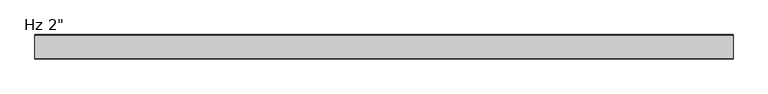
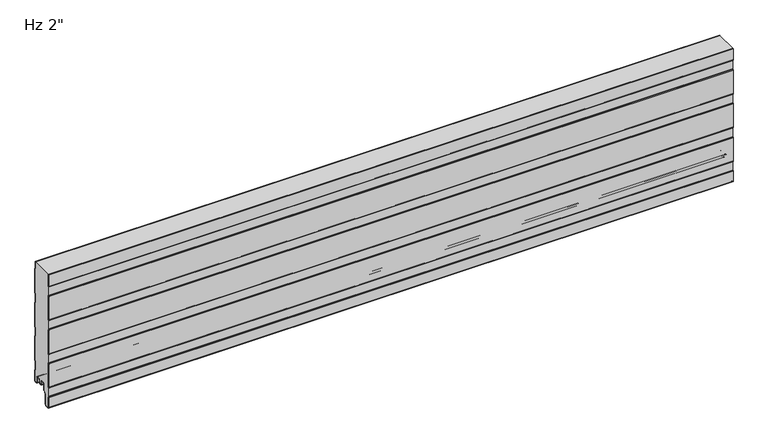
"""IFC4 building model written with IfcOpenShell, lengths in millimetres: plate geometry."""

from ifc_helpers import new_model, si_unit, point, frame, frame_2d, origin, place, context, project, spatial, polyline, circle_curve, trimmed, segment, composite_curve, outline, extrude, source, transform, mapped, element, save
from ifc_brep_helpers import plane_surface, cylinder_surface, revolved_surface, advanced_brep


def plate_de2fd6df(model_context):
    return source(origin(), model_context, "Body", "SolidModel", [
        extrude(outline(composite_curve([segment(trimmed(circle_curve(frame_2d((-22.5013969, 2.2313092)), 1.1999976), [point((-22.470875, 1.0316999))], [point((-21.3014003, 2.2328239))], True, "CARTESIAN"), True, "CONTINUOUS"), segment(polyline([(-21.3014003, 2.2328239), (-21.3014003, 5.9912173), (-22.6998791, 5.9912173), (-22.6998791, 8.6903283)]), True, "CONTINUOUS"), segment(trimmed(circle_curve(frame_2d((-26.0498744, 8.6903283)), 3.3499953), [point((-22.6998791, 8.6903283))], [point((-26.0498744, 12.0403236))], True, "CARTESIAN"), True, "CONTINUOUS"), segment(polyline([(-26.0498744, 12.0403236), (-30.4498656, 12.0403236)]), True, "CONTINUOUS"), segment(trimmed(circle_curve(frame_2d((-30.4498656, 8.6903283)), 3.3499953), [point((-30.4498656, 12.0403236))], [point((-33.7998609, 8.6903283))], True, "CARTESIAN"), True, "CONTINUOUS"), segment(polyline([(-33.7998609, 8.6903283), (-33.7998609, -3.1205608)]), True, "CONTINUOUS"), segment(trimmed(circle_curve(frame_2d((-35.4998555, -3.1205608)), 1.6999946), [point((-33.7998609, -3.1205608))], [point((-34.2977778, -4.3226385))], False, "CARTESIAN"), True, "CONTINUOUS"), segment(polyline([(-34.2977778, -4.3226385), (-39.7998489, -9.8247096), (-39.7998489, -31.9198392)]), True, "CONTINUOUS"), segment(trimmed(circle_curve(frame_2d((-42.4998415, -31.9198392)), 2.6999926), [point((-39.7998489, -31.9198392))], [point((-42.0184509, -34.5765709))], False, "CARTESIAN"), True, "CONTINUOUS"), segment(polyline([(-42.0184509, -34.5765709), (-47.0002718, -35.0125699)]), True, "CONTINUOUS"), segment(trimmed(circle_curve(frame_2d((-47.2243575, -32.4521176)), 2.5702393), [point((-47.0002718, -35.0125699))], [point((-49.7945967, -32.4521176))], False, "CARTESIAN"), True, "CONTINUOUS"), segment(polyline([(-49.7945967, -32.4521176), (-49.7945967, -10.4790962), (-48.5946282, -9.2791277), (-48.5946282, 10.4402849), (-49.7948589, 11.6405156), (-49.7948589, 65.7206473), (-48.5946282, 66.920878), (-48.5946282, 86.6402905), (-49.7948589, 87.8405213), (-49.7948589, 141.920653), (-48.5946282, 143.1208837), (-48.5946282, 162.8402962), (-49.7948589, 164.0405269), (-49.7948589, 218.1206587), (-48.5946282, 219.3208894), (-48.5946282, 239.0403019), (-49.7948589, 240.2405326), (-49.7948589, 266.4), (-2.206575, 266.4), (-2.206575, 251.0192115), (-1.0063443, 249.6335785), (-1.0063443, 195.5801631), (-2.206575, 194.1945302), (-2.206575, 174.8193639), (-1.0063443, 173.4337309), (-1.0063443, 119.3803155), (-2.206575, 117.9946826), (-2.206575, 98.6195163), (-1.0063443, 97.2338833), (-1.0063443, 43.1804679), (-2.206575, 41.794835), (-2.206575, 22.4196687), (-1.0063359, 21.034026), (-1.0063359, -3.4662506), (-5.2378832, -3.4662506)]), True, "CONTINUOUS"), segment(trimmed(circle_curve(frame_2d((-5.2378832, -1.6962564)), 1.7699942), [point((-5.2378832, -3.4662506))], [point((-7.0078774, -1.6962564))], False, "CARTESIAN"), True, "CONTINUOUS"), segment(polyline([(-7.0078774, -1.6962564), (-7.0078774, 8.7237222)]), True, "CONTINUOUS"), segment(trimmed(circle_curve(frame_2d((-10.3078733, 8.7237222)), 3.2999959), [point((-7.0078774, 8.7237222))], [point((-10.3078733, 12.023718))], True, "CARTESIAN"), True, "CONTINUOUS"), segment(polyline([(-10.3078733, 12.023718), (-14.7078645, 12.023718)]), True, "CONTINUOUS"), segment(trimmed(circle_curve(frame_2d((-14.7078645, 8.7237223)), 3.2999957), [point((-14.7078645, 12.023718))], [point((-18.0078602, 8.7237223))], True, "CARTESIAN"), True, "CONTINUOUS"), segment(polyline([(-18.0078602, 8.7237223), (-18.0078602, 6.0315125), (-19.0078547, 6.0315125), (-19.0078547, 2.0313089)]), True, "CONTINUOUS"), segment(trimmed(circle_curve(frame_2d((-18.0078576, 2.0313089)), 0.9999972), [point((-19.0078547, 2.0313089))], [point((-18.0078635, 1.0313117))], True, "CARTESIAN"), True, "CONTINUOUS"), segment(polyline([(-18.0078635, 1.0313117), (-19.0391752, 0.0), (-21.4391751, 0.0), (-22.470875, 1.0316999)]), True, "CONTINUOUS")], self_intersect=False)), frame((-730.0, 0.0, 0.0), z_axis=(1.0, 0.0, 0.0), x_axis=(0.0, 1.0, 0.0)), (0.0, 0.0, 1.0), 1460.0),
        advanced_brep(
        [(-730.0, -17.0015159, 2.0313088), (-730.0, -18.0015191, 1.0313116), (-730.0, -19.0015105, 2.0313088), (-730.0, -19.0015105, 6.0315125), (-730.0, -18.0015159, 6.0315125), (-730.0, -18.0015159, 8.7237223), (-730.0, -14.7015202, 12.023718), (-730.0, -10.301529, 12.023718), (-730.0, -7.0015335, 8.7237225), (-730.0, -7.0015335, -1.6962564), (-730.0, -5.2315393, -3.4662506), (-730.0, -0.9999916, -3.4662506), (-730.0, -0.9999916, 21.034026), (-730.0, -2.2002307, 22.4196686), (-730.0, -2.2002307, 41.7948349), (-730.0, -1.0, 43.1804679), (-730.0, -1.0, 97.2338833), (-730.0, -2.2002307, 98.6195162), (-730.0, -2.2002307, 117.9946825), (-730.0, -1.0, 119.3803155), (-730.0, -1.0, 173.4337309), (-730.0, -2.2002307, 174.8193638), (-730.0, -2.2002307, 194.1945301), (-730.0, -1.0, 195.5801631), (-730.0, -1.0, 249.6335785), (-730.0, -2.2002307, 251.0192114), (-730.0, -2.2002307, 266.4), (-730.0, -1.2002307, 266.4), (-730.0, -1.2002307, 251.3920919), (-730.0, -0.3417885, 250.4010442), (-730.0, 0.0, 249.4844273), (-730.0, 0.0, 195.7293142), (-730.0, -0.3417885, 194.8126973), (-730.0, -1.2002307, 193.8216497), (-730.0, -1.2002307, 175.1922443), (-730.0, -0.3417885, 174.2011966), (-730.0, 0.0, 173.2845797), (-730.0, 0.0, 119.5294666), (-730.0, -0.3417885, 118.6128497), (-730.0, -1.2002307, 117.6218021), (-730.0, -1.2002307, 98.9923967), (-730.0, -0.3417885, 98.001349), (-730.0, 0.0, 97.0847321), (-730.0, 0.0, 43.329619), (-730.0, -0.3417885, 42.4130021), (-730.0, -1.2002307, 41.4219545), (-730.0, -1.2002307, 22.7925491), (-730.0, -0.3417885, 21.8015014), (-730.0, 0.0, 20.8847931), (-730.0, 8.4e-06, -3.0662545), (-730.0, -1.3999878, -4.4662506), (-730.0, -5.2315393, -4.4662506), (-730.0, -8.0015335, -1.6962564), (-730.0, -8.0015335, 8.7237225), (-730.0, -10.301529, 11.023718), (-730.0, -14.7015202, 11.023718), (-730.0, -17.0015159, 8.7237223), (730.0, -17.0015159, 2.0313088), (730.0, -17.0015159, 8.7237223), (730.0, -14.7015202, 11.023718), (730.0, -10.301529, 11.023718), (730.0, -8.0015335, 8.7237225), (730.0, -8.0015335, -1.6962564), (730.0, -5.2315393, -4.4662506), (730.0, -1.3999878, -4.4662506), (730.0, 8.4e-06, -3.0662545), (730.0, 8.4e-06, 20.8848845), (730.0, -0.3417885, 21.8015014), (730.0, -1.2002307, 22.7925491), (730.0, -1.2002307, 41.4219545), (730.0, -0.3417885, 42.4130021), (730.0, 0.0, 43.329619), (730.0, 0.0, 97.0847321), (730.0, -0.3417885, 98.001349), (730.0, -1.2002307, 98.9923967), (730.0, -1.2002307, 117.6218021), (730.0, -0.3417885, 118.6128497), (730.0, 0.0, 119.5294666), (730.0, 0.0, 173.2845797), (730.0, -0.3417885, 174.2011966), (730.0, -1.2002307, 175.1922443), (730.0, -1.2002307, 193.8216497), (730.0, -0.3417885, 194.8126973), (730.0, 0.0, 195.7293142), (730.0, 0.0, 249.4844273), (730.0, -0.3417885, 250.4010442), (730.0, -1.2002307, 251.3920919), (730.0, -1.2002307, 266.4), (730.0, -2.2002307, 266.4), (730.0, -2.2002307, 251.0192114), (730.0, -1.0, 249.6335785), (730.0, -1.0, 195.5801631), (730.0, -2.2002307, 194.1945301), (730.0, -2.2002307, 174.8193638), (730.0, -1.0, 173.4337309), (730.0, -1.0, 119.3803155), (730.0, -2.2002307, 117.9946825), (730.0, -2.2002307, 98.6195162), (730.0, -1.0, 97.2338833), (730.0, -1.0, 43.1804679), (730.0, -2.2002307, 41.7948349), (730.0, -2.2002307, 22.4196686), (730.0, -0.9999916, 21.034026), (730.0, -0.9999916, -3.4662506), (730.0, -5.2315393, -3.4662506), (730.0, -7.0015335, -1.6962564), (730.0, -7.0015335, 8.7237225), (730.0, -10.301529, 12.023718), (730.0, -14.7015202, 12.023718), (730.0, -18.0015159, 8.7237223), (730.0, -18.0015159, 6.0315125), (730.0, -19.0015105, 6.0315125), (730.0, -19.0015105, 2.0313088), (730.0, -18.0015192, 1.0313116)],
        [
            (0, 1, circle_curve(frame((-730.0, -18.0015132, 2.0313088), z_axis=(-1.0, 0.0, 0.0), x_axis=(0.0, 0.0, 1.0)), 0.9999973)),
            (1, 2, circle_curve(frame((-730.0, -18.0015133, 2.0313088), z_axis=(-1.0, 0.0, 0.0), x_axis=(0.0, 0.0, 1.0)), 0.9999972)),
            (2, 3),
            (3, 4),
            (4, 5),
            (5, 6, circle_curve(frame((-730.0, -14.7015202, 8.7237223), z_axis=(-1.0, 0.0, 0.0), x_axis=(0.0, 0.0, 1.0)), 3.2999957)),
            (6, 7),
            (7, 8, circle_curve(frame((-730.0, -10.301529, 8.7237225), z_axis=(-1.0, 0.0, 0.0), x_axis=(0.0, 0.0, 1.0)), 3.2999955)),
            (8, 9),
            (9, 10, circle_curve(frame((-730.0, -5.2315393, -1.6962564), z_axis=(1.0, 0.0, 0.0), x_axis=(0.0, 0.0, 1.0)), 1.7699942)),
            (10, 11),
            (11, 12),
            (12, 13),
            (13, 14),
            (14, 15),
            (15, 16),
            (16, 17),
            (17, 18),
            (18, 19),
            (19, 20),
            (20, 21),
            (21, 22),
            (22, 23),
            (23, 24),
            (24, 25),
            (25, 26),
            (26, 27),
            (27, 28),
            (28, 29),
            (29, 30, circle_curve(frame((-730.0, -1.3999972, 249.4844273), z_axis=(-1.0, 0.0, 0.0), x_axis=(0.0, 0.0, 1.0)), 1.3999972)),
            (30, 31),
            (31, 32, circle_curve(frame((-730.0, -1.3999972, 195.7293142), z_axis=(-1.0, 0.0, 0.0), x_axis=(0.0, 0.0, 1.0)), 1.3999972)),
            (32, 33),
            (33, 34),
            (34, 35),
            (35, 36, circle_curve(frame((-730.0, -1.3999972, 173.2845797), z_axis=(-1.0, 0.0, 0.0), x_axis=(0.0, 0.0, 1.0)), 1.3999972)),
            (36, 37),
            (37, 38, circle_curve(frame((-730.0, -1.3999972, 119.5294666), z_axis=(-1.0, 0.0, 0.0), x_axis=(0.0, 0.0, 1.0)), 1.3999972)),
            (38, 39),
            (39, 40),
            (40, 41),
            (41, 42, circle_curve(frame((-730.0, -1.3999972, 97.0847321), z_axis=(-1.0, 0.0, 0.0), x_axis=(0.0, 0.0, 1.0)), 1.3999972)),
            (42, 43),
            (43, 44, circle_curve(frame((-730.0, -1.3999972, 43.329619), z_axis=(-1.0, 0.0, 0.0), x_axis=(0.0, 0.0, 1.0)), 1.3999972)),
            (44, 45),
            (45, 46),
            (46, 47),
            (47, 48, circle_curve(frame((-730.0, -1.3999972, 20.8848845), z_axis=(-1.0, 0.0, 0.0), x_axis=(0.0, 0.0, 1.0)), 1.3999972)),
            (48, 49),
            (49, 50, circle_curve(frame((-730.0, -1.3999878, -3.0662545), z_axis=(-1.0, 0.0, 0.0), x_axis=(0.0, 0.0, 1.0)), 1.3999962)),
            (50, 51),
            (51, 52, circle_curve(frame((-730.0, -5.2315393, -1.6962564), z_axis=(-1.0, 0.0, 0.0), x_axis=(0.0, 0.0, 1.0)), 2.7699942)),
            (52, 53),
            (53, 54, circle_curve(frame((-730.0, -10.301529, 8.7237225), z_axis=(1.0, 0.0, 0.0), x_axis=(0.0, 0.0, 1.0)), 2.2999955)),
            (54, 55),
            (55, 56, circle_curve(frame((-730.0, -14.7015202, 8.7237223), z_axis=(1.0, 0.0, 0.0), x_axis=(0.0, 0.0, 1.0)), 2.2999957)),
            (56, 0),
            (57, 58),
            (58, 59, circle_curve(frame((730.0, -14.7015202, 8.7237223), z_axis=(-1.0, 0.0, 0.0), x_axis=(0.0, 0.0, 1.0)), 2.2999957)),
            (59, 60),
            (60, 61, circle_curve(frame((730.0, -10.301529, 8.7237225), z_axis=(-1.0, 0.0, 0.0), x_axis=(0.0, 0.0, 1.0)), 2.2999955)),
            (61, 62),
            (62, 63, circle_curve(frame((730.0, -5.2315393, -1.6962564), z_axis=(1.0, 0.0, 0.0), x_axis=(0.0, 0.0, 1.0)), 2.7699942)),
            (63, 64),
            (64, 65, circle_curve(frame((730.0, -1.3999878, -3.0662545), z_axis=(1.0, 0.0, 0.0), x_axis=(0.0, 0.0, 1.0)), 1.3999962)),
            (65, 66),
            (66, 67, circle_curve(frame((730.0, -1.3999972, 20.8848845), z_axis=(1.0, 0.0, 0.0), x_axis=(0.0, 0.0, 1.0)), 1.3999972)),
            (67, 68),
            (68, 69),
            (69, 70),
            (70, 71, circle_curve(frame((730.0, -1.3999972, 43.329619), z_axis=(1.0, 0.0, 0.0), x_axis=(0.0, 0.0, 1.0)), 1.3999972)),
            (71, 72),
            (72, 73, circle_curve(frame((730.0, -1.3999972, 97.0847321), z_axis=(1.0, 0.0, 0.0), x_axis=(0.0, 0.0, 1.0)), 1.3999972)),
            (73, 74),
            (74, 75),
            (75, 76),
            (76, 77, circle_curve(frame((730.0, -1.3999972, 119.5294666), z_axis=(1.0, 0.0, 0.0), x_axis=(0.0, 0.0, 1.0)), 1.3999972)),
            (77, 78),
            (78, 79, circle_curve(frame((730.0, -1.3999972, 173.2845797), z_axis=(1.0, 0.0, 0.0), x_axis=(0.0, 0.0, 1.0)), 1.3999972)),
            (79, 80),
            (80, 81),
            (81, 82),
            (82, 83, circle_curve(frame((730.0, -1.3999972, 195.7293142), z_axis=(1.0, 0.0, 0.0), x_axis=(0.0, 0.0, 1.0)), 1.3999972)),
            (83, 84),
            (84, 85, circle_curve(frame((730.0, -1.3999972, 249.4844273), z_axis=(1.0, 0.0, 0.0), x_axis=(0.0, 0.0, 1.0)), 1.3999972)),
            (85, 86),
            (86, 87),
            (87, 88),
            (88, 89),
            (89, 90),
            (90, 91),
            (91, 92),
            (92, 93),
            (93, 94),
            (94, 95),
            (95, 96),
            (96, 97),
            (97, 98),
            (98, 99),
            (99, 100),
            (100, 101),
            (101, 102),
            (102, 103),
            (103, 104),
            (104, 105, circle_curve(frame((730.0, -5.2315393, -1.6962564), z_axis=(-1.0, 0.0, 0.0), x_axis=(0.0, 0.0, 1.0)), 1.7699942)),
            (105, 106),
            (106, 107, circle_curve(frame((730.0, -10.301529, 8.7237225), z_axis=(1.0, 0.0, 0.0), x_axis=(0.0, 0.0, 1.0)), 3.2999955)),
            (107, 108),
            (108, 109, circle_curve(frame((730.0, -14.7015202, 8.7237223), z_axis=(1.0, 0.0, 0.0), x_axis=(0.0, 0.0, 1.0)), 3.2999957)),
            (109, 110),
            (110, 111),
            (111, 112),
            (112, 113, circle_curve(frame((730.0, -18.0015133, 2.0313088), z_axis=(1.0, 0.0, 0.0), x_axis=(0.0, 0.0, 1.0)), 0.9999972)),
            (113, 57, circle_curve(frame((730.0, -18.0015132, 2.0313088), z_axis=(1.0, 0.0, 0.0), x_axis=(0.0, 0.0, 1.0)), 0.9999973)),
            (26, 88),
            (87, 27),
            (56, 58),
            (57, 0),
            (55, 59),
            (54, 60),
            (53, 61),
            (52, 62),
            (51, 63),
            (50, 64),
            (49, 65),
            (48, 66),
            (47, 67),
            (46, 68),
            (45, 69),
            (44, 70),
            (43, 71),
            (42, 72),
            (41, 73),
            (40, 74),
            (39, 75),
            (38, 76),
            (37, 77),
            (36, 78),
            (19, 95),
            (94, 20),
            (18, 96),
            (17, 97),
            (16, 98),
            (15, 99),
            (14, 100),
            (13, 101),
            (12, 102),
            (11, 103),
            (10, 104),
            (9, 105),
            (8, 106),
            (7, 107),
            (6, 108),
            (5, 109),
            (4, 110),
            (3, 111),
            (2, 112),
            (1, 113),
            (35, 79),
            (34, 80),
            (33, 81),
            (32, 82),
            (31, 83),
            (30, 84),
            (29, 85),
            (28, 86),
            (25, 89),
            (24, 90),
            (23, 91),
            (22, 92),
            (21, 93),
        ],
        [
            plane_surface(frame((-730.0, 0.0, 533.4), z_axis=(-1.0, 0.0, 0.0), x_axis=(0.0, 1.0, 0.0))),
            plane_surface(frame((730.0, 0.0, 533.4), z_axis=(1.0, 0.0, 0.0), x_axis=(0.0, 1.0, 0.0))),
            plane_surface(frame((730.0, 10.0, 266.4), z_axis=(0.0, 0.0, 1.0), x_axis=(-1.0, 0.0, 0.0))),
            plane_surface(frame((-730.0, -17.0015159, 2.0313088), z_axis=(0.0, 1.0, 0.0), x_axis=(1.0, 0.0, 0.0))),
            revolved_surface(polyline([(730.0, -14.7015202, 11.023718), (-730.0, -14.7015202, 11.023718)]), (-730.0, -14.7015202, 8.7237223), (1.0, 0.0, 0.0)),
            plane_surface(frame((-730.0, -14.7015202, 11.023718), z_axis=(0.0, 0.0, -1.0), x_axis=(1.0, 0.0, 0.0))),
            revolved_surface(polyline([(730.0, -10.301529, 11.023717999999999), (-730.0, -10.301529, 11.023717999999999)]), (-730.0, -10.301529, 8.7237225), (1.0, 0.0, 0.0)),
            plane_surface(frame((-730.0, -8.0015335, 8.7237225), z_axis=(0.0, -1.0, 0.0), x_axis=(1.0, 0.0, 0.0))),
            cylinder_surface(frame((-730.0, -5.2315393, -1.6962564), z_axis=(-1.0, 0.0, 0.0), x_axis=(0.0, 0.0, 1.0)), 2.7699942),
            plane_surface(frame((-730.0, -5.2315393, -4.4662506), z_axis=(0.0, 0.0, -1.0), x_axis=(1.0, 0.0, 0.0))),
            cylinder_surface(frame((-730.0, -1.3999878, -3.0662545), z_axis=(-1.0, 0.0, 0.0), x_axis=(0.0, 0.0, 1.0)), 1.3999962),
            plane_surface(frame((-730.0, 8.4e-06, -3.0662545), z_axis=(0.0, 1.0, 0.0), x_axis=(1.0, 0.0, 0.0))),
            cylinder_surface(frame((-730.0, -1.3999972, 20.8848845), z_axis=(-1.0, 0.0, 0.0), x_axis=(0.0, 0.0, 1.0)), 1.3999972),
            plane_surface(frame((-730.0, -0.3417885, 21.8015014), z_axis=(0.0, 0.755864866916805, 0.6547276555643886), x_axis=(1.0, 0.0, 0.0))),
            plane_surface(frame((-730.0, -1.2002307, 32.1072518), z_axis=(0.0, 1.0, 0.0), x_axis=(1.0, 0.0, 0.0))),
            plane_surface(frame((-730.0, -1.2002307, 41.4219545), z_axis=(0.0, 0.755864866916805, -0.6547276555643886), x_axis=(1.0, 0.0, 0.0))),
            cylinder_surface(frame((-730.0, -1.3999972, 43.329619), z_axis=(-1.0, 0.0, 0.0), x_axis=(0.0, 0.0, 1.0)), 1.3999972),
            plane_surface(frame((-730.0, 0.0, 43.329619), z_axis=(0.0, 1.0, 0.0), x_axis=(1.0, 0.0, 0.0))),
            cylinder_surface(frame((-730.0, -1.3999972, 97.0847321), z_axis=(-1.0, 0.0, 0.0), x_axis=(0.0, 0.0, 1.0)), 1.3999972),
            plane_surface(frame((-730.0, -0.3417885, 98.001349), z_axis=(0.0, 0.755864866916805, 0.6547276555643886), x_axis=(1.0, 0.0, 0.0))),
            plane_surface(frame((-730.0, -1.2002307, 108.3070994), z_axis=(0.0, 1.0, 0.0), x_axis=(1.0, 0.0, 0.0))),
            plane_surface(frame((-730.0, -1.2002307, 117.6218021), z_axis=(0.0, 0.755864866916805, -0.6547276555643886), x_axis=(1.0, 0.0, 0.0))),
            cylinder_surface(frame((-730.0, -1.3999972, 119.5294666), z_axis=(-1.0, 0.0, 0.0), x_axis=(0.0, 0.0, 1.0)), 1.3999972),
            plane_surface(frame((-730.0, 0.0, 119.5294666), z_axis=(0.0, 1.0, 0.0), x_axis=(1.0, 0.0, 0.0))),
            plane_surface(frame((-730.0, -1.0, 173.4337309), z_axis=(0.0, -1.0, 0.0), x_axis=(1.0, 0.0, 0.0))),
            plane_surface(frame((-730.0, -1.0, 119.3803155), z_axis=(0.0, -0.755864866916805, 0.6547276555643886), x_axis=(1.0, 0.0, 0.0))),
            plane_surface(frame((-730.0, -2.2002307, 117.9946825), z_axis=(0.0, -1.0, 0.0), x_axis=(1.0, 0.0, 0.0))),
            plane_surface(frame((-730.0, -2.2002307, 98.6195162), z_axis=(0.0, -0.755864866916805, -0.6547276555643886), x_axis=(1.0, 0.0, 0.0))),
            plane_surface(frame((-730.0, -1.0, 97.2338833), z_axis=(0.0, -1.0, 0.0), x_axis=(1.0, 0.0, 0.0))),
            plane_surface(frame((-730.0, -1.0, 43.1804679), z_axis=(0.0, -0.755864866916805, 0.6547276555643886), x_axis=(1.0, 0.0, 0.0))),
            plane_surface(frame((-730.0, -2.2002307, 41.7948349), z_axis=(0.0, -1.0, 0.0), x_axis=(1.0, 0.0, 0.0))),
            plane_surface(frame((-730.0, -2.2002307, 22.4196686), z_axis=(0.0, -0.755864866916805, -0.6547276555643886), x_axis=(1.0, 0.0, 0.0))),
            plane_surface(frame((-730.0, -0.9999916, 21.034026), z_axis=(0.0, -1.0, 0.0), x_axis=(1.0, 0.0, 0.0))),
            plane_surface(frame((-730.0, -0.9999916, -3.4662506), z_axis=(0.0, 0.0, 1.0), x_axis=(1.0, 0.0, 0.0))),
            revolved_surface(polyline([(730.0, -5.2315393, 0.07373779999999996), (-730.0, -5.2315393, 0.07373779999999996)]), (-730.0, -5.2315393, -1.6962564), (1.0, 0.0, 0.0)),
            plane_surface(frame((-730.0, -7.0015335, -1.6962564), z_axis=(0.0, 1.0, 0.0), x_axis=(1.0, 0.0, 0.0))),
            cylinder_surface(frame((-730.0, -10.301529, 8.7237225), z_axis=(-1.0, 0.0, 0.0), x_axis=(0.0, 0.0, 1.0)), 3.2999955),
            plane_surface(frame((-730.0, -10.301529, 12.023718), z_axis=(0.0, 0.0, 1.0), x_axis=(1.0, 0.0, 0.0))),
            cylinder_surface(frame((-730.0, -14.7015202, 8.7237223), z_axis=(-1.0, 0.0, 0.0), x_axis=(0.0, 0.0, 1.0)), 3.2999957),
            plane_surface(frame((-730.0, -18.0015159, 8.7237223), z_axis=(0.0, -1.0, 0.0), x_axis=(1.0, 0.0, 0.0))),
            plane_surface(frame((-730.0, -18.0015159, 6.0315125), z_axis=(0.0, 0.0, 1.0), x_axis=(1.0, 0.0, 0.0))),
            plane_surface(frame((-730.0, -19.0015105, 6.0315125), z_axis=(0.0, -1.0, 0.0), x_axis=(1.0, 0.0, 0.0))),
            cylinder_surface(frame((-730.0, -18.0015133, 2.0313088), z_axis=(-1.0, 0.0, 0.0), x_axis=(0.0, 0.0, 1.0)), 0.9999972),
            cylinder_surface(frame((-730.0, -18.0015132, 2.0313088), z_axis=(-1.0, 0.0, 0.0), x_axis=(0.0, 0.0, 1.0)), 0.9999973),
            cylinder_surface(frame((-730.0, -1.3999972, 173.2845797), z_axis=(-1.0, 0.0, 0.0), x_axis=(0.0, 0.0, 1.0)), 1.3999972),
            plane_surface(frame((-730.0, -0.3417885, 174.2011966), z_axis=(0.0, 0.755864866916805, 0.6547276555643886), x_axis=(1.0, 0.0, 0.0))),
            plane_surface(frame((-730.0, -1.2002307, 184.506947), z_axis=(0.0, 1.0, 0.0), x_axis=(1.0, 0.0, 0.0))),
            plane_surface(frame((-730.0, -1.2002307, 193.8216497), z_axis=(0.0, 0.755864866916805, -0.6547276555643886), x_axis=(1.0, 0.0, 0.0))),
            cylinder_surface(frame((-730.0, -1.3999972, 195.7293142), z_axis=(-1.0, 0.0, 0.0), x_axis=(0.0, 0.0, 1.0)), 1.3999972),
            plane_surface(frame((-730.0, 0.0, 195.7293142), z_axis=(0.0, 1.0, 0.0), x_axis=(1.0, 0.0, 0.0))),
            cylinder_surface(frame((-730.0, -1.3999972, 249.4844273), z_axis=(-1.0, 0.0, 0.0), x_axis=(0.0, 0.0, 1.0)), 1.3999972),
            plane_surface(frame((-730.0, -0.3417885, 250.4010442), z_axis=(0.0, 0.755864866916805, 0.6547276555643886), x_axis=(1.0, 0.0, 0.0))),
            plane_surface(frame((-730.0, -1.2002307, 260.7067946), z_axis=(0.0, 1.0, 0.0), x_axis=(1.0, 0.0, 0.0))),
            plane_surface(frame((-730.0, -2.2002307, 270.3943777), z_axis=(0.0, -1.0, 0.0), x_axis=(1.0, 0.0, 0.0))),
            plane_surface(frame((-730.0, -2.2002307, 251.0192114), z_axis=(0.0, -0.755864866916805, -0.6547276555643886), x_axis=(1.0, 0.0, 0.0))),
            plane_surface(frame((-730.0, -1.0, 249.6335785), z_axis=(0.0, -1.0, 0.0), x_axis=(1.0, 0.0, 0.0))),
            plane_surface(frame((-730.0, -1.0, 195.5801631), z_axis=(0.0, -0.755864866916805, 0.6547276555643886), x_axis=(1.0, 0.0, 0.0))),
            plane_surface(frame((-730.0, -2.2002307, 194.1945301), z_axis=(0.0, -1.0, 0.0), x_axis=(1.0, 0.0, 0.0))),
            plane_surface(frame((-730.0, -2.2002307, 174.8193638), z_axis=(0.0, -0.755864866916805, -0.6547276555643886), x_axis=(1.0, 0.0, 0.0))),
        ],
        [
            (0, [[1, 2, 3, 4, 5, 6, 7, 8, 9, 10, 11, 12, 13, 14, 15, 16, 17, 18, 19, 20, 21, 22, 23, 24, 25, 26, 27, 28, 29, 30, 31, 32, 33, 34, 35, 36, 37, 38, 39, 40, 41, 42, 43, 44, 45, 46, 47, 48, 49, 50, 51, 52, 53, 54, 55, 56, 57]]),
            (1, [[58, 59, 60, 61, 62, 63, 64, 65, 66, 67, 68, 69, 70, 71, 72, 73, 74, 75, 76, 77, 78, 79, 80, 81, 82, 83, 84, 85, 86, 87, 88, 89, 90, 91, 92, 93, 94, 95, 96, 97, 98, 99, 100, 101, 102, 103, 104, 105, 106, 107, 108, 109, 110, 111, 112, 113, 114]]),
            (2, [[115, -88, 116, -27]]),
            (3, [[117, -58, 118, -57]]),
            (4, [[119, -59, -117, -56]]),
            (5, [[120, -60, -119, -55]]),
            (6, [[121, -61, -120, -54]]),
            (7, [[122, -62, -121, -53]]),
            (8, [[123, -63, -122, -52]]),
            (9, [[124, -64, -123, -51]]),
            (10, [[125, -65, -124, -50]]),
            (11, [[126, -66, -125, -49]]),
            (12, [[127, -67, -126, -48]]),
            (13, [[128, -68, -127, -47]]),
            (14, [[129, -69, -128, -46]]),
            (15, [[130, -70, -129, -45]]),
            (16, [[131, -71, -130, -44]]),
            (17, [[132, -72, -131, -43]]),
            (18, [[133, -73, -132, -42]]),
            (19, [[134, -74, -133, -41]]),
            (20, [[135, -75, -134, -40]]),
            (21, [[136, -76, -135, -39]]),
            (22, [[137, -77, -136, -38]]),
            (23, [[138, -78, -137, -37]]),
            (24, [[139, -95, 140, -20]]),
            (25, [[141, -96, -139, -19]]),
            (26, [[142, -97, -141, -18]]),
            (27, [[143, -98, -142, -17]]),
            (28, [[144, -99, -143, -16]]),
            (29, [[145, -100, -144, -15]]),
            (30, [[146, -101, -145, -14]]),
            (31, [[147, -102, -146, -13]]),
            (32, [[148, -103, -147, -12]]),
            (33, [[149, -104, -148, -11]]),
            (34, [[150, -105, -149, -10]]),
            (35, [[151, -106, -150, -9]]),
            (36, [[152, -107, -151, -8]]),
            (37, [[153, -108, -152, -7]]),
            (38, [[154, -109, -153, -6]]),
            (39, [[155, -110, -154, -5]]),
            (40, [[156, -111, -155, -4]]),
            (41, [[157, -112, -156, -3]]),
            (42, [[158, -113, -157, -2]]),
            (43, [[-118, -114, -158, -1]]),
            (44, [[159, -79, -138, -36]]),
            (45, [[160, -80, -159, -35]]),
            (46, [[161, -81, -160, -34]]),
            (47, [[162, -82, -161, -33]]),
            (48, [[163, -83, -162, -32]]),
            (49, [[164, -84, -163, -31]]),
            (50, [[165, -85, -164, -30]]),
            (51, [[166, -86, -165, -29]]),
            (52, [[-28, -116, -87, -166]]),
            (53, [[-89, -115, -26, 167]]),
            (54, [[168, -90, -167, -25]]),
            (55, [[169, -91, -168, -24]]),
            (56, [[170, -92, -169, -23]]),
            (57, [[171, -93, -170, -22]]),
            (58, [[-140, -94, -171, -21]]),
        ],
    ),
        extrude(outline(composite_curve([segment(trimmed(circle_curve(frame_2d((-49.4007733, -10.6415934)), 1.3998661), [point((-50.8006394, -10.6415934))], [point((-50.3333971, -9.5976403))], False, "CARTESIAN"), True, "CONTINUOUS"), segment(polyline([(-50.3333971, -9.5976403), (-49.6006709, -8.8649141), (-49.6006709, 10.0260713), (-50.3336365, 10.7590369)]), True, "CONTINUOUS"), segment(trimmed(circle_curve(frame_2d((-49.4009253, 11.8030877)), 1.3999972), [point((-50.3336365, 10.7590369))], [point((-50.8009016, 11.810741))], False, "CARTESIAN"), True, "CONTINUOUS"), segment(polyline([(-50.8009016, 11.810741), (-50.8009016, 65.5582542)]), True, "CONTINUOUS"), segment(trimmed(circle_curve(frame_2d((-49.4009044, 65.5582542)), 1.3999972), [point((-50.8009016, 65.5582542))], [point((-50.3336156, 66.602305))], False, "CARTESIAN"), True, "CONTINUOUS"), segment(polyline([(-50.3336156, 66.602305), (-49.6006709, 67.3352497), (-49.6006709, 86.2259189), (-50.3336365, 86.9588845)]), True, "CONTINUOUS"), segment(trimmed(circle_curve(frame_2d((-49.4009253, 88.0029353)), 1.3999972), [point((-50.3336365, 86.9588845))], [point((-50.8009016, 88.0105886))], False, "CARTESIAN"), True, "CONTINUOUS"), segment(polyline([(-50.8009016, 88.0105886), (-50.8009016, 141.7581018)]), True, "CONTINUOUS"), segment(trimmed(circle_curve(frame_2d((-49.4009044, 141.7581018)), 1.3999972), [point((-50.8009016, 141.7581018))], [point((-50.3336156, 142.8021526))], False, "CARTESIAN"), True, "CONTINUOUS"), segment(polyline([(-50.3336156, 142.8021526), (-49.6006709, 143.5350973), (-49.6006709, 162.4257665), (-50.3336365, 163.1587321)]), True, "CONTINUOUS"), segment(trimmed(circle_curve(frame_2d((-49.4009253, 164.2027829)), 1.3999972), [point((-50.3336365, 163.1587321))], [point((-50.8009016, 164.2104362))], False, "CARTESIAN"), True, "CONTINUOUS"), segment(polyline([(-50.8009016, 164.2104362), (-50.8009016, 217.9579494)]), True, "CONTINUOUS"), segment(trimmed(circle_curve(frame_2d((-49.4009044, 217.9579494)), 1.3999972), [point((-50.8009016, 217.9579494))], [point((-50.3336156, 219.0020002))], False, "CARTESIAN"), True, "CONTINUOUS"), segment(polyline([(-50.3336156, 219.0020002), (-49.6006709, 219.7349449), (-49.6006709, 238.6256141), (-50.3336365, 239.3585797)]), True, "CONTINUOUS"), segment(trimmed(circle_curve(frame_2d((-49.4009253, 240.4026305)), 1.3999972), [point((-50.3336365, 239.3585797))], [point((-50.8009016, 240.4102838))], False, "CARTESIAN"), True, "CONTINUOUS"), segment(polyline([(-50.8009016, 240.4102838), (-50.8009016, 266.4), (-49.8009016, 266.4), (-49.8009016, 240.2405326), (-48.6006709, 239.0403019), (-48.6006709, 219.3208894), (-49.8009016, 218.1206587), (-49.8009016, 164.0405269), (-48.6006709, 162.8402962), (-48.6006709, 143.1208837), (-49.8009016, 141.920653), (-49.8009016, 87.8405213), (-48.6006709, 86.6402905), (-48.6006709, 66.920878), (-49.8009016, 65.7206473), (-49.8009016, 11.6405156), (-48.6006709, 10.4402849), (-48.6006709, -9.2791277), (-49.8006394, -10.4790962), (-49.8006394, -32.4521176)]), True, "CONTINUOUS"), segment(trimmed(circle_curve(frame_2d((-47.2304001, -32.4521176)), 2.5702393), [point((-49.8006394, -32.4521176))], [point((-47.0063145, -35.0125699))], True, "CARTESIAN"), True, "CONTINUOUS"), segment(polyline([(-47.0063145, -35.0125699), (-42.0244936, -34.5765709)]), True, "CONTINUOUS"), segment(trimmed(circle_curve(frame_2d((-42.5058842, -31.9198392)), 2.6999926), [point((-42.0244936, -34.5765709))], [point((-39.8058916, -31.9198392))], True, "CARTESIAN"), True, "CONTINUOUS"), segment(polyline([(-39.8058916, -31.9198392), (-39.8058916, -9.8247096), (-34.3038205, -4.3226385)]), True, "CONTINUOUS"), segment(trimmed(circle_curve(frame_2d((-35.5058982, -3.1205608)), 1.6999946), [point((-34.3038205, -4.3226385))], [point((-33.8059036, -3.1205608))], True, "CARTESIAN"), True, "CONTINUOUS"), segment(polyline([(-33.8059036, -3.1205608), (-33.8059036, 8.6903283)]), True, "CONTINUOUS"), segment(trimmed(circle_curve(frame_2d((-30.4559083, 8.6903283)), 3.3499953), [point((-33.8059036, 8.6903283))], [point((-30.4559083, 12.0403236))], False, "CARTESIAN"), True, "CONTINUOUS"), segment(polyline([(-30.4559083, 12.0403236), (-26.0559171, 12.0403236)]), True, "CONTINUOUS"), segment(trimmed(circle_curve(frame_2d((-26.0559171, 8.6903283)), 3.3499953), [point((-26.0559171, 12.0403236))], [point((-22.7059218, 8.6903283))], False, "CARTESIAN"), True, "CONTINUOUS"), segment(polyline([(-22.7059218, 8.6903283), (-22.7059218, 5.9912173), (-21.3074429, 5.9912173), (-21.3074429, 2.2328239)]), True, "CONTINUOUS"), segment(trimmed(circle_curve(frame_2d((-22.5074396, 2.2313092)), 1.1999976), [point((-21.3074429, 2.2328239))], [point((-22.4769177, 1.0316999))], False, "CARTESIAN"), True, "CONTINUOUS"), segment(trimmed(circle_curve(frame_2d((-22.5074396, 2.2313092)), 1.1999976), [point((-22.4769177, 1.0316999))], [point((-23.7059218, 2.1710221))], False, "CARTESIAN"), True, "CONTINUOUS"), segment(polyline([(-23.7059218, 2.1710221), (-23.7059218, 8.6903283)]), True, "CONTINUOUS"), segment(trimmed(circle_curve(frame_2d((-26.0559171, 8.6903283)), 2.3499953), [point((-23.7059218, 8.6903283))], [point((-26.0559171, 11.0403236))], True, "CARTESIAN"), True, "CONTINUOUS"), segment(polyline([(-26.0559171, 11.0403236), (-30.4559083, 11.0403236)]), True, "CONTINUOUS"), segment(trimmed(circle_curve(frame_2d((-30.4559083, 8.6903283)), 2.3499953), [point((-30.4559083, 11.0403236))], [point((-32.8059036, 8.6903283))], True, "CARTESIAN"), True, "CONTINUOUS"), segment(polyline([(-32.8059036, 8.6903283), (-32.8059036, -3.1205608)]), True, "CONTINUOUS"), segment(trimmed(circle_curve(frame_2d((-35.5058982, -3.1205608)), 2.6999946), [point((-32.8059036, -3.1205608))], [point((-33.5967137, -5.0297453))], False, "CARTESIAN"), True, "CONTINUOUS"), segment(polyline([(-33.5967137, -5.0297453), (-38.4251312, -9.8581627)]), True, "CONTINUOUS"), segment(trimmed(circle_curve(frame_2d((-37.5058942, -10.7773997)), 1.2999974), [point((-38.4251312, -9.8581627))], [point((-38.8058916, -10.7773997))], True, "CARTESIAN"), True, "CONTINUOUS"), segment(polyline([(-38.8058916, -10.7773997), (-38.8058916, -31.9198392)]), True, "CONTINUOUS"), segment(trimmed(circle_curve(frame_2d((-42.5058842, -31.9198392)), 3.6999926), [point((-38.8058916, -31.9198392))], [point((-41.8950831, -35.5690675))], False, "CARTESIAN"), True, "CONTINUOUS"), segment(polyline([(-41.8950831, -35.5690675), (-46.9191297, -36.008762)]), True, "CONTINUOUS"), segment(trimmed(circle_curve(frame_2d((-47.2304001, -32.4521176)), 3.5702393), [point((-46.9191297, -36.008762))], [point((-50.8006394, -32.4521176))], False, "CARTESIAN"), True, "CONTINUOUS"), segment(polyline([(-50.8006394, -32.4521176), (-50.8006394, -10.6415934)]), True, "CONTINUOUS")], self_intersect=False)), frame((-730.0, 0.0, 0.0), z_axis=(1.0, 0.0, 0.0), x_axis=(0.0, 1.0, 0.0)), (0.0, 0.0, 1.0), 1460.0),
    ])


if __name__ == "__main__":
    model = new_model("IFC4")
    model_context = context("Model", 3, world=origin())
    ifc_project = project(units=[si_unit("LENGTHUNIT", "METRE", prefix="MILLI")], contexts=[model_context])
    site = spatial("IfcSite", under=ifc_project)
    building = spatial("IfcBuilding", under=site)
    placement = place(None, origin())
    plate_shape = plate_de2fd6df(model_context)
    element("IfcPlate", 1, ObjectType="KIP-42-Karrier-KP-R19-CP-Hz-SL3-8in_SL : Hz 2\"", at=placement, inside=building, context=model_context, shape_type="MappedRepresentation", body=[
        mapped(plate_shape, transform((0.0, 0.0, 0.0), x_axis=(1.0, 0.0, 0.0), y_axis=(0.0, 1.0, 0.0), z_axis=(0.0, 0.0, 1.0))),
    ])
    save(model, "model.ifc")
